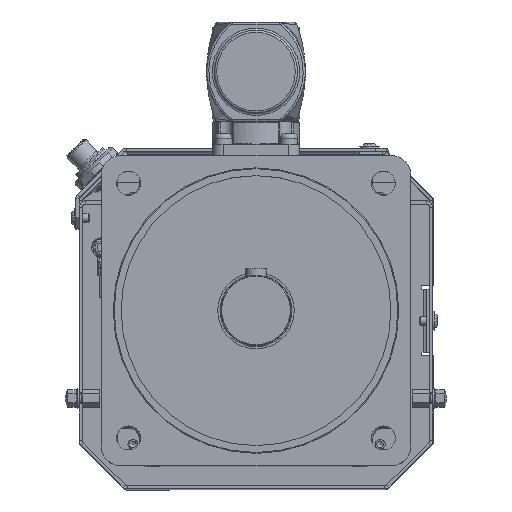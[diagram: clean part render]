
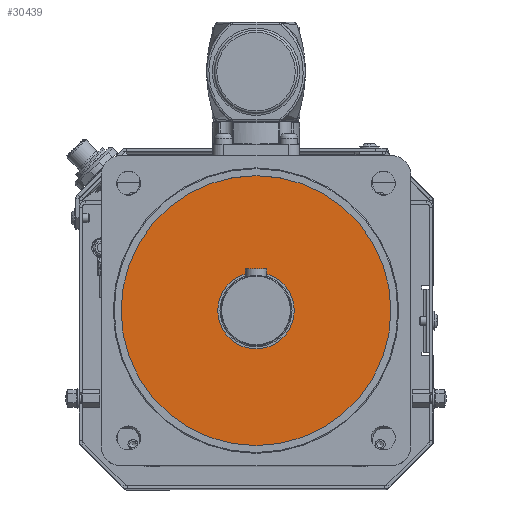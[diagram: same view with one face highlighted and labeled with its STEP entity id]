
A CAD part, top view. The second image highlights one B-rep face of the part: STEP entity #30439.
In plain terms, the highlighted planar face has unit normal (0, 0, 1).
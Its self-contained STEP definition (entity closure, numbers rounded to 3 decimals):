
#1832=FACE_BOUND('',#10273,.T.);
#2172=PLANE('',#32512);
#8539=FACE_OUTER_BOUND('',#10272,.T.);
#10272=EDGE_LOOP('',(#23187));
#10273=EDGE_LOOP('',(#23188,#23189));
#12190=CIRCLE('',#32134,17.5);
#12191=CIRCLE('',#32135,17.5);
#12346=CIRCLE('',#32511,61.818);
#13958=VERTEX_POINT('',#47296);
#13959=VERTEX_POINT('',#47297);
#14398=VERTEX_POINT('',#49400);
#16959=EDGE_CURVE('',#13958,#13959,#12190,.T.);
#16960=EDGE_CURVE('',#13959,#13958,#12191,.T.);
#17649=EDGE_CURVE('',#14398,#14398,#12346,.T.);
#23187=ORIENTED_EDGE('',*,*,#17649,.T.);
#23188=ORIENTED_EDGE('',*,*,#16959,.T.);
#23189=ORIENTED_EDGE('',*,*,#16960,.T.);
#30439=ADVANCED_FACE('',(#8539,#1832),#2172,.F.);
#32134=AXIS2_PLACEMENT_3D('',#47298,#35870,#35871);
#32135=AXIS2_PLACEMENT_3D('',#47299,#35872,#35873);
#32511=AXIS2_PLACEMENT_3D('',#49402,#37088,#37089);
#32512=AXIS2_PLACEMENT_3D('',#49403,#37090,#37091);
#35870=DIRECTION('center_axis',(0.,0.,-1.));
#35871=DIRECTION('ref_axis',(0.,1.,0.));
#35872=DIRECTION('center_axis',(0.,0.,-1.));
#35873=DIRECTION('ref_axis',(0.,1.,0.));
#37088=DIRECTION('center_axis',(0.,0.,1.));
#37089=DIRECTION('ref_axis',(-1.,0.,0.));
#37090=DIRECTION('center_axis',(0.,0.,-1.));
#37091=DIRECTION('ref_axis',(-1.,0.,0.));
#47296=CARTESIAN_POINT('',(0.,17.5,-0.5));
#47297=CARTESIAN_POINT('',(0.,-17.5,-0.5));
#47298=CARTESIAN_POINT('Origin',(0.,0.,-0.5));
#47299=CARTESIAN_POINT('Origin',(0.,0.,-0.5));
#49400=CARTESIAN_POINT('',(61.818,0.,-0.5));
#49402=CARTESIAN_POINT('Origin',(0.,0.,-0.5));
#49403=CARTESIAN_POINT('Origin',(0.,0.,-0.5));
